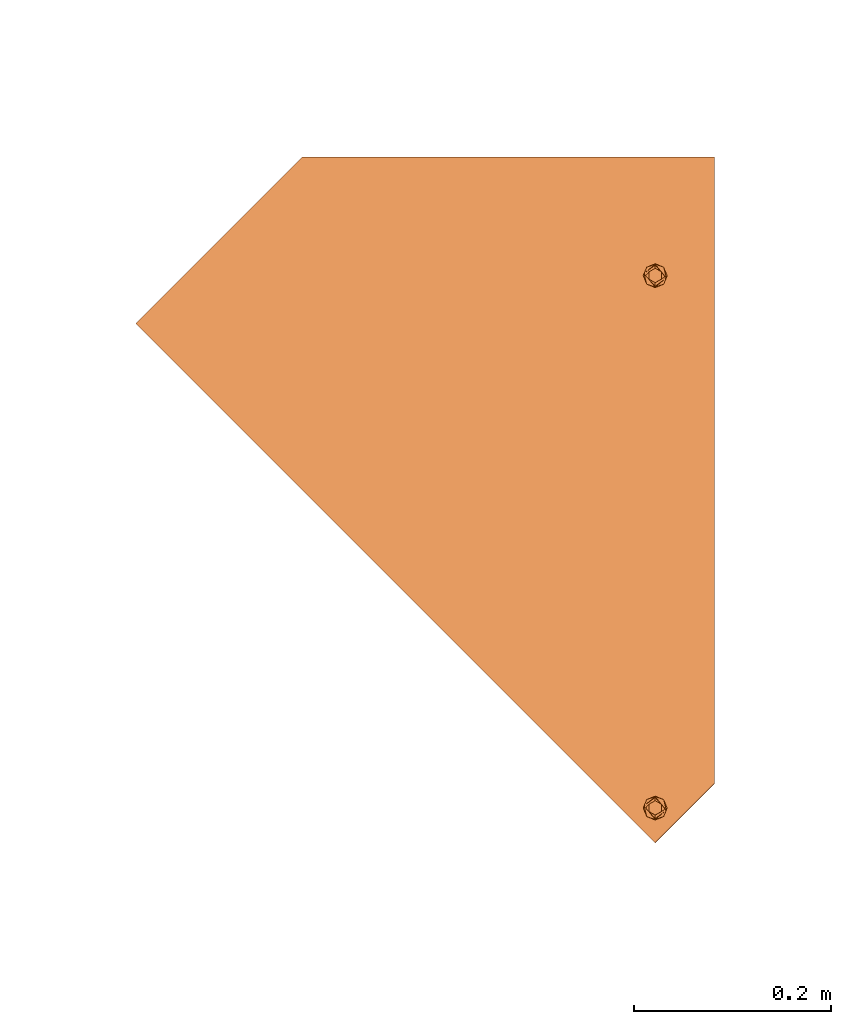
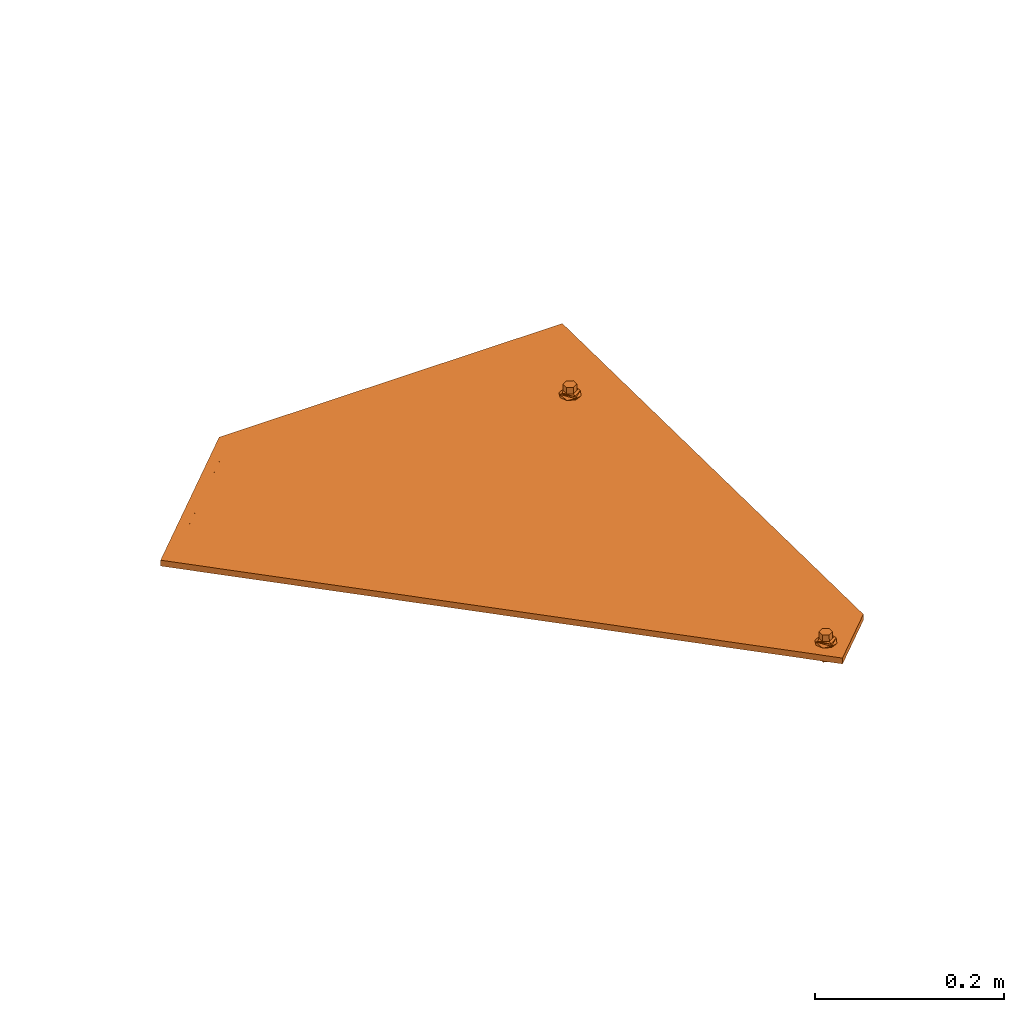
# One storey, part 151 of 151: 1 proxy.
"""IFC2X3 building model written with IfcOpenShell, lengths in millimetres."""

from ifc_helpers import new_model, entity, si_unit, converted_unit, derived_unit, direction, frame, origin, place, context, subcontext, project, spatial, faceted_brep, source, transform, mapped, material, material_list, type_object, type_shapes, element, save


model = new_model("IFC2X3")

# Units and contexts
model_context = context("Model", 3, precision=0.01, world=origin(), true_north=direction((6.12303176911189e-17, 1.0)))
body_context = subcontext(model_context, "Body", "Model", "MODEL_VIEW")
ifc_project = project(units=[si_unit("LENGTHUNIT", "METRE", prefix="MILLI"), si_unit("AREAUNIT", "SQUARE_METRE"), si_unit("VOLUMEUNIT", "CUBIC_METRE"), converted_unit("PLANEANGLEUNIT", "DEGREE", entity("IfcRatioMeasure", 0.0174532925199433), si_unit("PLANEANGLEUNIT", "RADIAN"), dimensions=[0, 0, 0, 0, 0, 0, 0]), si_unit("MASSUNIT", "GRAM", prefix="KILO"), derived_unit("MASSDENSITYUNIT", [(si_unit("MASSUNIT", "GRAM", prefix="KILO"), 1), (si_unit("LENGTHUNIT", "METRE"), -3)]), si_unit("TIMEUNIT", "SECOND"), si_unit("FREQUENCYUNIT", "HERTZ"), si_unit("THERMODYNAMICTEMPERATUREUNIT", "DEGREE_CELSIUS"), derived_unit("THERMALTRANSMITTANCEUNIT", [(si_unit("MASSUNIT", "GRAM", prefix="KILO"), 1), (si_unit("THERMODYNAMICTEMPERATUREUNIT", "KELVIN"), -1), (si_unit("TIMEUNIT", "SECOND"), -3)]), derived_unit("VOLUMETRICFLOWRATEUNIT", [(si_unit("LENGTHUNIT", "METRE"), 3), (si_unit("TIMEUNIT", "SECOND"), -1)]), si_unit("ELECTRICCURRENTUNIT", "AMPERE"), si_unit("ELECTRICVOLTAGEUNIT", "VOLT"), si_unit("POWERUNIT", "WATT"), si_unit("FORCEUNIT", "NEWTON", prefix="KILO"), si_unit("ILLUMINANCEUNIT", "LUX"), si_unit("LUMINOUSFLUXUNIT", "LUMEN"), si_unit("LUMINOUSINTENSITYUNIT", "CANDELA"), derived_unit("USERDEFINED", [(si_unit("MASSUNIT", "GRAM", prefix="KILO"), -1), (si_unit("LENGTHUNIT", "METRE"), -2), (si_unit("TIMEUNIT", "SECOND"), 3), (si_unit("LUMINOUSFLUXUNIT", "LUMEN"), 1)]), derived_unit("LINEARVELOCITYUNIT", [(si_unit("LENGTHUNIT", "METRE"), 1), (si_unit("TIMEUNIT", "SECOND"), -1)]), si_unit("PRESSUREUNIT", "PASCAL"), derived_unit("USERDEFINED", [(si_unit("LENGTHUNIT", "METRE"), -2), (si_unit("MASSUNIT", "GRAM", prefix="KILO"), 1), (si_unit("TIMEUNIT", "SECOND"), -2)])], contexts=[model_context])

# Site, building, storey
site_placement = place(None, origin())
site = spatial("IfcSite", under=ifc_project, at=site_placement, Name="Default", CompositionType="ELEMENT")
building_placement = place(site_placement, origin())
building = spatial("IfcBuilding", under=site, at=building_placement, CompositionType="ELEMENT")
storey_placement = place(building_placement, origin())
storey = spatial("IfcBuildingStorey", under=building, at=storey_placement, Name="Level 1", CompositionType="ELEMENT", Elevation=0.0)

# Proxy
ifc_material_1 = material(Name="Rubber - Sunstyle - Black")
ifc_material_2 = material(Name="Glass - Sunstyle - Tainted Black")
ifc_material_list_1 = material_list([ifc_material_1, ifc_material_2])
ifc_material_list_2 = material_list([ifc_material_1, ifc_material_2])
building_element_proxy_type = type_object("IfcBuildingElementProxyType", Name="Corner Top Big Right - Black", PredefinedType="NOTDEFINED", material=ifc_material_list_2)
shared_shape = source(origin(), body_context, "Body", "Brep", [
    faceted_brep([(-518.396436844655, -96.9865733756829, 16.4476231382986), (-518.396436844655, -96.9614556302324, 17.9474128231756), (-526.881123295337, -88.4767691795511, 17.8053154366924), (-526.881123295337, -88.5018869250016, 16.3055257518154), (-376.996804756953, 61.3404039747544, 13.7960402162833), (-368.512118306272, 52.8557175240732, 13.9381376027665), (-376.996804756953, 61.3655217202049, 15.2958299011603), (-368.512118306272, 52.8808352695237, 15.4379272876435)], [[[0, 1, 2, 3]], [[0, 3, 4, 5]], [[3, 2, 6, 4]], [[2, 1, 7, 6]], [[1, 0, 5, 7]], [[5, 4, 6, 7]]]),
    faceted_brep([(0.0, -33.6587903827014, -4.47296585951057), (-5.7742028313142, -36.9920605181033, -4.41714187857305), (-5.77420283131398, -36.6237514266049, 17.5747274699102), (0.0, -33.290481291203, 17.5189034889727), (-5.77420283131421, -43.658600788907, -4.30549391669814), (-5.77420283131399, -43.2902916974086, 17.6863754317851), (0.0, -46.9918709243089, -4.24966993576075), (0.0, -46.6235618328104, 17.7421994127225), (5.77420283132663, -43.658600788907, -4.30549391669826), (5.77420283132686, -43.2902916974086, 17.686375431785), (5.77420283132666, -36.9920605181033, -4.41714187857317), (5.77420283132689, -36.6237514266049, 17.5747274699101), (-8.60370416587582, -48.5595194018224, 17.774621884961), (0.0, -52.1227906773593, 17.8342978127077), (-12.1674751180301, -39.9570215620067, 17.6305514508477), (-8.60370416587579, -31.354523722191, 17.4864810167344), (0.0, -27.7912524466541, 17.4268050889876), (8.60370416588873, -31.3545237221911, 17.4864810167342), (12.167475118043, -39.9570215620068, 17.6305514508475), (8.60370416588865, -48.5595194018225, 17.7746218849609), (-11.3242446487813, -37.6619444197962, 19.9433933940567), (-9.75647455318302, -39.886006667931, 21.8708760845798), (0.0, -32.5729314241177, 22.5035764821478), (0.0, -31.3324337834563, 21.9232298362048), (0.0, -29.1748829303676, 20.9138547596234), (0.0, -51.5667466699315, 19.1093557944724), (0.0, -50.6231700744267, 21.273060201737), (0.0, -47.1737943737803, 22.748104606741), (0.0, -28.3042885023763, 18.7197675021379), (-6.32324569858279, -43.5235786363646, 22.6869725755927), (-6.32324569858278, -36.2231471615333, 22.5647085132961), (11.3242446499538, -42.1733646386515, 20.0189484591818), (9.84888015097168, -40.9604131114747, 21.7920079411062), (6.32324569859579, -36.2231471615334, 22.564708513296), (6.32324569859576, -43.5235786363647, 22.6869725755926), (-6.32324569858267, -43.3895501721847, 30.6898607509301), (0.0, -47.0397659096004, 30.7509927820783), (0.0, -39.7393344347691, 30.6287287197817), (-6.32324569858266, -36.0891186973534, 30.5675966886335), (6.32324569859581, -43.3895501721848, 30.6898607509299), (6.32324569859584, -36.0891186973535, 30.5675966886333), (0.0, -32.4389029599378, 30.5064646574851), (0.0, -40.3253306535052, -4.36131789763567)], [[[0, 1, 2, 3]], [[1, 4, 5, 2]], [[4, 6, 7, 5]], [[6, 8, 9, 7]], [[8, 10, 11, 9]], [[10, 0, 3, 11]], [[12, 7, 13]], [[7, 12, 5]], [[14, 5, 12]], [[5, 14, 2]], [[15, 2, 14]], [[3, 2, 15]], [[15, 16, 3]], [[16, 17, 3]], [[11, 3, 17]], [[11, 17, 18]], [[9, 11, 18]], [[18, 19, 9]], [[7, 9, 19]], [[19, 13, 7]], [[20, 14, 12]], [[21, 22, 23, 24]], [[24, 20, 21]], [[25, 20, 12]], [[26, 27, 21]], [[15, 14, 20]], [[12, 13, 25]], [[20, 28, 15]], [[28, 20, 24]], [[21, 27, 29]], [[21, 29, 30]], [[26, 21, 20]], [[20, 25, 26]], [[15, 28, 16]], [[21, 30, 22]], [[31, 18, 17]], [[28, 31, 17]], [[32, 27, 26]], [[26, 31, 32]], [[26, 25, 31]], [[25, 19, 31]], [[17, 16, 28]], [[31, 19, 18]], [[24, 31, 28]], [[33, 34, 32]], [[23, 22, 33]], [[24, 32, 31]], [[27, 32, 34]], [[32, 23, 33]], [[19, 25, 13]], [[32, 24, 23]], [[35, 36, 37]], [[37, 38, 35]], [[36, 39, 37]], [[40, 37, 39]], [[37, 40, 41]], [[37, 41, 38]], [[42, 6, 4]], [[4, 1, 42]], [[1, 0, 42]], [[42, 8, 6]], [[0, 10, 42]], [[8, 42, 10]], [[22, 30, 38, 41]], [[30, 29, 35, 38]], [[29, 27, 36, 35]], [[27, 34, 39, 36]], [[34, 33, 40, 39]], [[33, 22, 41, 40]]]),
    faceted_brep([(0.0, -573.741281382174, 4.00636906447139), (-5.77420283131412, -577.074551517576, 4.06219304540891), (-5.77420283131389, -576.706242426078, 26.0540623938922), (0.0, -573.372972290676, 25.9982384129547), (-5.77420283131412, -583.74109178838, 4.17384100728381), (-5.7742028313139, -583.372782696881, 26.1657103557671), (0.0, -587.074361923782, 4.22966498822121), (0.0, -586.706052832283, 26.2215343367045), (5.77420283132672, -583.74109178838, 4.1738410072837), (5.77420283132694, -583.372782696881, 26.165710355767), (5.77420283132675, -577.074551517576, 4.06219304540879), (5.77420283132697, -576.706242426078, 26.0540623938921), (-8.60370416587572, -588.642010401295, 26.253956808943), (0.0, -592.205281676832, 26.3136327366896), (-12.16747511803, -580.03951256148, 26.1098863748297), (-8.6037041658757, -571.437014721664, 25.9658159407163), (0.0, -567.873743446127, 25.9061400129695), (8.60370416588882, -571.437014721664, 25.9658159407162), (12.1674751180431, -580.03951256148, 26.1098863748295), (8.60370416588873, -588.642010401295, 26.2539568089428), (-11.3242446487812, -577.744435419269, 28.4227283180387), (-9.75647455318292, -579.968497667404, 30.3502110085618), (0.0, -572.65542242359, 30.9829114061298), (0.0, -571.414924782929, 30.4025647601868), (0.0, -569.25737392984, 29.3931896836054), (0.0, -591.649237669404, 27.5886907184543), (0.0, -590.7056610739, 29.752395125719), (0.0, -587.256285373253, 31.227439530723), (0.0, -568.386779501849, 27.1991024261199), (-6.32324569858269, -583.606069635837, 31.1663074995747), (-6.32324569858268, -576.305638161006, 31.0440434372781), (11.3242446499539, -582.255855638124, 28.4982833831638), (9.84888015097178, -581.042904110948, 30.2713428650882), (6.32324569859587, -576.305638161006, 31.044043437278), (6.32324569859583, -583.606069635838, 31.1663074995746), (-6.32324569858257, -583.472041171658, 39.1691956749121), (0.0, -587.122256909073, 39.2303277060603), (0.0, -579.821825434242, 39.1080636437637), (-6.32324569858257, -576.171609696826, 39.0469316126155), (6.32324569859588, -583.472041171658, 39.1691956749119), (6.32324569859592, -576.171609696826, 39.0469316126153), (0.0, -572.521393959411, 38.9857995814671), (0.0, -580.407821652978, 4.1180170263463)], [[[0, 1, 2, 3]], [[1, 4, 5, 2]], [[4, 6, 7, 5]], [[6, 8, 9, 7]], [[8, 10, 11, 9]], [[10, 0, 3, 11]], [[12, 7, 13]], [[7, 12, 5]], [[14, 5, 12]], [[5, 14, 2]], [[15, 2, 14]], [[3, 2, 15]], [[15, 16, 3]], [[16, 17, 3]], [[11, 3, 17]], [[11, 17, 18]], [[9, 11, 18]], [[18, 19, 9]], [[7, 9, 19]], [[19, 13, 7]], [[20, 14, 12]], [[21, 22, 23, 24]], [[24, 20, 21]], [[25, 20, 12]], [[26, 27, 21]], [[15, 14, 20]], [[12, 13, 25]], [[20, 28, 15]], [[28, 20, 24]], [[21, 27, 29]], [[21, 29, 30]], [[26, 21, 20]], [[20, 25, 26]], [[15, 28, 16]], [[21, 30, 22]], [[31, 18, 17]], [[28, 31, 17]], [[32, 27, 26]], [[26, 31, 32]], [[26, 25, 31]], [[25, 19, 31]], [[17, 16, 28]], [[31, 19, 18]], [[24, 31, 28]], [[33, 34, 32]], [[23, 22, 33]], [[24, 32, 31]], [[27, 32, 34]], [[32, 23, 33]], [[19, 25, 13]], [[32, 24, 23]], [[35, 36, 37]], [[37, 38, 35]], [[36, 39, 37]], [[40, 37, 39]], [[37, 40, 41]], [[37, 41, 38]], [[42, 6, 4]], [[4, 1, 42]], [[1, 0, 42]], [[42, 8, 6]], [[0, 10, 42]], [[8, 42, 10]], [[22, 30, 38, 41]], [[30, 29, 35, 38]], [[29, 27, 36, 35]], [[27, 34, 39, 36]], [[34, 33, 40, 39]], [[33, 22, 41, 40]]]),
    faceted_brep([(-358.233764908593, 80.2949038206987, 14.9588844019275), (-7.72740661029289, -37.8750957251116, 16.9379378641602), (-6.92820323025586, -35.9459186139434, 16.9056289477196), (-8.0, -39.9453577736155, 16.9726096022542), (-5.65685424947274, -34.2892966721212, 16.8778846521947), (60.1037538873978, 80.2949038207, 14.9588844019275), (-7.72740661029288, -42.0156198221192, 17.0072813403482), (-6.92820323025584, -43.9447969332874, 17.0395902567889), (-526.967115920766, -88.3911342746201, 17.7839558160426), (-5.6568542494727, -45.6014188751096, 17.0673345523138), (-5.74249573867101, -574.310711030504, 25.9218996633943), (-7.01384471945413, -575.967332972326, 25.9496439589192), (-7.81304809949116, -577.896510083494, 25.9819528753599), (-8.08564148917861, -579.966772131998, 26.0166246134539), (-7.81304809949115, -582.037034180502, 26.0512963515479), (-0.000322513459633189, -615.210165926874, 26.6068637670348), (-7.01384471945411, -583.96621129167, 26.0836052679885), (-5.74249573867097, -585.622833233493, 26.1113495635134), (-4.08564148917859, -586.894003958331, 26.1326385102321), (-2.15619384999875, -587.693095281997, 26.1460213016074), (-0.0856414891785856, -587.965650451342, 26.1505859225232), (1.98491087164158, -587.693095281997, 26.1460213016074), (3.91435851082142, -586.894003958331, 26.1326385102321), (5.5712127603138, -585.622833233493, 26.1113495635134), (6.84256174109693, -583.96621129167, 26.0836052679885), (60.1037538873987, -555.122942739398, 25.600552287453), (7.72740661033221, -42.0156198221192, 17.0072813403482), (6.92820323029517, -43.9447969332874, 17.0395902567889), (5.65685424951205, -45.6014188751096, 17.0673345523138), (4.0, -46.8725895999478, 17.0886234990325), (2.07055236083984, -47.6716809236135, 17.1020062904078), (0.0, -47.9442360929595, 17.1065709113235), (-2.07055236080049, -47.6716809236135, 17.1020062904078), (-2.1561938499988, -572.240448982, 25.8872279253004), (-0.0856414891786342, -571.967893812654, 25.8826633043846), (1.98491087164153, -572.240448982, 25.8872279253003), (3.91435851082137, -573.039540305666, 25.9006107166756), (5.57121276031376, -574.310711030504, 25.9218996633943), (6.8425617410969, -575.967332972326, 25.9496439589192), (7.64176512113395, -577.896510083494, 25.9819528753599), (7.91435851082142, -579.966772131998, 26.0166246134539), (7.64176512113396, -582.037034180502, 26.0512963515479), (-4.08564148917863, -573.039540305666, 25.9006107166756), (-4.0, -46.8725895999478, 17.0886234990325), (-4.0, -33.0181259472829, 16.856595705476), (-2.07055236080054, -32.2190346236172, 16.8432129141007), (0.0, -31.9464794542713, 16.8386482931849), (2.07055236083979, -32.2190346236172, 16.8432129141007), (4.0, -33.0181259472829, 16.856595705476), (5.65685424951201, -34.2892966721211, 16.8778846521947), (6.92820323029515, -35.9459186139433, 16.9056289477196), (7.7274066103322, -37.8750957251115, 16.9379378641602), (8.0, -39.9453577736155, 16.9726096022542), (-7.01384471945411, -584.091800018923, 18.5846568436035), (-5.74249573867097, -585.748421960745, 18.6124011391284), (-0.00032251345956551, -615.335754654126, 19.1079153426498), (-7.81304809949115, -582.162622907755, 18.5523479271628), (-4.08564148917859, -587.019592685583, 18.6336900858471), (-2.15619384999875, -587.818684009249, 18.6470728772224), (-0.0856414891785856, -588.091239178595, 18.6516374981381), (1.98491087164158, -587.818684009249, 18.6470728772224), (3.91435851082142, -587.019592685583, 18.6336900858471), (5.5712127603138, -585.748421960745, 18.6124011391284), (6.84256174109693, -584.091800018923, 18.5846568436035), (60.1037538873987, -555.248531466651, 18.101603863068), (7.64176512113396, -582.162622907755, 18.5523479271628), (7.91435851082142, -580.092360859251, 18.5176761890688), (7.64176512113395, -578.022098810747, 18.4830044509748), (6.8425617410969, -576.092921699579, 18.4506955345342), (5.57121276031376, -574.436299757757, 18.4229512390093), (3.91435851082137, -573.165129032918, 18.4016622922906), (1.98491087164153, -572.366037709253, 18.3882795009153), (-0.0856414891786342, -572.093482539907, 18.3837148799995), (-2.1561938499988, -572.366037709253, 18.3882795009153), (-2.07055236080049, -47.797269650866, 9.60305786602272), (-4.0, -46.9981783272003, 9.58967507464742), (-4.08564148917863, -573.165129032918, 18.4016622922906), (-5.6568542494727, -45.7270076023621, 9.56838612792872), (-5.74249573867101, -574.436299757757, 18.4229512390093), (-526.967115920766, -88.5167230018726, 10.2850073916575), (-7.01384471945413, -576.092921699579, 18.4506955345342), (-7.81304809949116, -578.022098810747, 18.4830044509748), (-8.08564148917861, -580.092360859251, 18.5176761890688), (-6.92820323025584, -44.0703856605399, 9.54064183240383), (-358.233764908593, 80.1693150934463, 7.45993597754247), (-7.72740661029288, -42.1412085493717, 9.50833291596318), (-8.0, -40.070946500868, 9.47366117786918), (-7.72740661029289, -38.000684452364, 9.43898943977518), (-6.92820323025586, -36.0715073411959, 9.40668052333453), (-5.65685424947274, -34.4148853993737, 9.37893622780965), (60.1037538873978, 80.1693150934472, 7.45993597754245), (-4.0, -33.1437146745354, 9.35764728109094), (-2.07055236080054, -32.3446233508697, 9.34426448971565), (7.72740661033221, -42.1412085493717, 9.50833291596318), (8.0, -40.0709465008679, 9.47366117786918), (7.7274066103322, -38.0006844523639, 9.43898943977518), (6.92820323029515, -36.0715073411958, 9.40668052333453), (5.65685424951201, -34.4148853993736, 9.37893622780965), (4.0, -33.1437146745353, 9.35764728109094), (2.07055236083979, -32.3446233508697, 9.34426448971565), (0.0, -32.0720681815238, 9.33969986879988), (0.0, -48.0698248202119, 9.60762248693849), (2.07055236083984, -47.797269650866, 9.60305786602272), (4.0, -46.9981783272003, 9.58967507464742), (5.65685424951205, -45.727007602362, 9.56838612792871), (6.92820323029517, -44.0703856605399, 9.54064183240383)], [[[0, 1, 2]], [[1, 0, 3]], [[0, 2, 4]], [[0, 4, 5]], [[6, 3, 0]], [[7, 6, 0]], [[0, 8, 7]], [[9, 7, 8]], [[8, 10, 9]], [[8, 11, 10]], [[11, 8, 12]], [[13, 12, 8]], [[14, 13, 8]], [[15, 14, 8]], [[16, 14, 15]], [[15, 17, 16]], [[17, 15, 18]], [[19, 18, 15]], [[15, 20, 19]], [[21, 20, 15]], [[21, 15, 22]], [[23, 22, 15]], [[24, 23, 15]], [[24, 15, 25]], [[5, 26, 25]], [[25, 26, 27]], [[28, 25, 27]], [[28, 29, 25]], [[29, 30, 25]], [[31, 25, 30]], [[31, 32, 25]], [[33, 25, 32]], [[25, 33, 34]], [[35, 25, 34]], [[35, 36, 25]], [[36, 37, 25]], [[38, 25, 37]], [[25, 38, 39]], [[39, 40, 25]], [[25, 40, 41]], [[25, 41, 24]], [[10, 42, 9]], [[42, 43, 9]], [[33, 43, 42]], [[32, 43, 33]], [[5, 4, 44]], [[5, 44, 45]], [[46, 5, 45]], [[46, 47, 5]], [[47, 48, 5]], [[49, 5, 48]], [[5, 49, 50]], [[5, 50, 51]], [[51, 52, 5]], [[52, 26, 5]], [[53, 54, 55]], [[56, 53, 55]], [[54, 57, 55]], [[57, 58, 55]], [[58, 59, 55]], [[55, 59, 60]], [[55, 60, 61]], [[55, 61, 62]], [[62, 63, 55]], [[55, 63, 64]], [[64, 63, 65]], [[66, 64, 65]], [[66, 67, 64]], [[68, 64, 67]], [[64, 68, 69]], [[69, 70, 64]], [[70, 71, 64]], [[71, 72, 64]], [[72, 73, 64]], [[73, 74, 64]], [[74, 73, 75]], [[76, 75, 73]], [[75, 76, 77]], [[76, 78, 77]], [[79, 77, 78]], [[80, 79, 78]], [[80, 81, 79]], [[81, 82, 79]], [[56, 79, 82]], [[56, 55, 79]], [[79, 83, 77]], [[84, 83, 79]], [[83, 84, 85]], [[84, 86, 85]], [[86, 84, 87]], [[87, 84, 88]], [[89, 88, 84]], [[90, 89, 84]], [[91, 89, 90]], [[90, 92, 91]], [[93, 90, 64]], [[93, 94, 90]], [[95, 90, 94]], [[95, 96, 90]], [[97, 90, 96]], [[90, 97, 98]], [[98, 99, 90]], [[99, 100, 90]], [[100, 92, 90]], [[74, 101, 64]], [[101, 102, 64]], [[102, 103, 64]], [[103, 104, 64]], [[104, 105, 64]], [[93, 64, 105]], [[13, 82, 81, 12]], [[12, 81, 80, 11]], [[42, 10, 78, 76]], [[80, 78, 10, 11]], [[33, 42, 76, 73]], [[72, 34, 33, 73]], [[35, 71, 70, 36]], [[36, 70, 69, 37]], [[39, 38, 68, 67]], [[69, 68, 38, 37]], [[40, 39, 67, 66]], [[35, 34, 72, 71]], [[40, 66, 65, 41]], [[41, 65, 63, 24]], [[22, 23, 62, 61]], [[63, 62, 23, 24]], [[21, 22, 61, 60]], [[59, 20, 21, 60]], [[19, 58, 57, 18]], [[18, 57, 54, 17]], [[14, 16, 53, 56]], [[54, 53, 16, 17]], [[13, 14, 56, 82]], [[19, 20, 59, 58]], [[3, 86, 87, 1]], [[1, 87, 88, 2]], [[44, 4, 89, 91]], [[89, 4, 2, 88]], [[45, 44, 91, 92]], [[45, 92, 100, 46]], [[46, 100, 99, 47]], [[47, 99, 98, 48]], [[50, 49, 97, 96]], [[97, 49, 48, 98]], [[51, 50, 96, 95]], [[51, 95, 94, 52]], [[52, 94, 93, 26]], [[26, 93, 105, 27]], [[29, 28, 104, 103]], [[104, 28, 27, 105]], [[30, 29, 103, 102]], [[30, 102, 101, 31]], [[31, 101, 74, 32]], [[32, 74, 75, 43]], [[7, 9, 77, 83]], [[77, 9, 43, 75]], [[6, 7, 83, 85]], [[6, 85, 86, 3]], [[8, 0, 84, 79]], [[15, 8, 79, 55]], [[25, 15, 55, 64]], [[5, 25, 64, 90]], [[0, 5, 90, 84]]]),
])
type_shapes(building_element_proxy_type, [shared_shape])
proxy_placement = place(storey_placement, frame((6796.20934583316, 10128.3354445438, 0.0)))
element("IfcBuildingElementProxy", 1, at=proxy_placement, inside=storey, type_object=building_element_proxy_type, material=ifc_material_list_1, Name="Roofing_Panels_SunStyle_Tile_Corner-Top-Big-Right:Corner Top Big Right - Black", ObjectType="Roofing_Panels_SunStyle_Tile_Corner-Top-Big-Right:Corner Top Big Right - Black", context=body_context, shape_type="MappedRepresentation", body=[
    mapped(shared_shape, transform((0.0, 0.0, 0.0), scale=1.0)),
])

save(model, "model.ifc")
